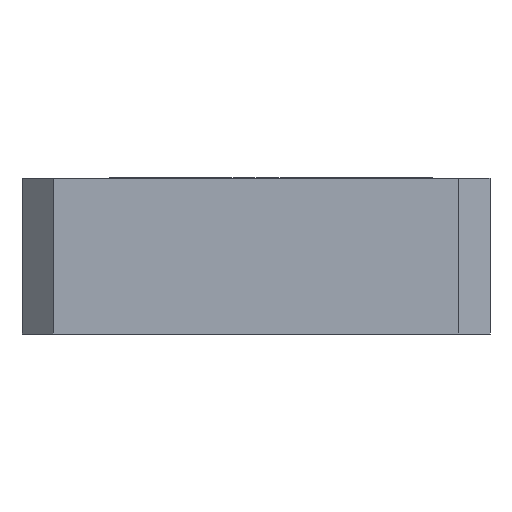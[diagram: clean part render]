
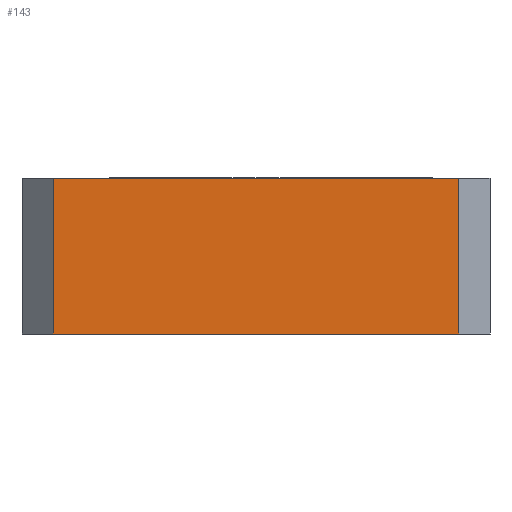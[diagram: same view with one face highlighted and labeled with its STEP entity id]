
A CAD part, front view. The second image highlights one B-rep face of the part: STEP entity #143.
In plain terms, the highlighted planar face has unit normal (0, -1, 0).
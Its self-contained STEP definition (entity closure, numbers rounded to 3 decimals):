
#66 = ORIENTED_EDGE ( 'NONE', *, *, #148, .T. ) ;
#67 = EDGE_CURVE ( 'NONE', #144, #76, #490, .T. ) ;
#68 = ORIENTED_EDGE ( 'NONE', *, *, #67, .T. ) ;
#73 = VERTEX_POINT ( 'NONE', #330 ) ;
#75 = ORIENTED_EDGE ( 'NONE', *, *, #146, .F. ) ;
#76 = VERTEX_POINT ( 'NONE', #328 ) ;
#80 = VERTEX_POINT ( 'NONE', #323 ) ;
#143 = ADVANCED_FACE ( 'NONE', ( #559 ), #560, .F. ) ;
#144 = VERTEX_POINT ( 'NONE', #563 ) ;
#145 = EDGE_CURVE ( 'NONE', #73, #80, #553, .T. ) ;
#146 = EDGE_CURVE ( 'NONE', #73, #76, #550, .T. ) ;
#147 = ORIENTED_EDGE ( 'NONE', *, *, #145, .T. ) ;
#148 = EDGE_CURVE ( 'NONE', #80, #144, #546, .T. ) ;
#152 = EDGE_LOOP ( 'NONE', ( #75, #147, #66, #68 ) ) ;
#323 = CARTESIAN_POINT ( 'NONE',  ( -13., 0., -5. ) ) ;
#328 = CARTESIAN_POINT ( 'NONE',  ( 13., 0., 5. ) ) ;
#330 = CARTESIAN_POINT ( 'NONE',  ( -13., 0., 5. ) ) ;
#331 = DIRECTION ( 'NONE',  ( 0., 0., 1. ) ) ;
#332 = VECTOR ( 'NONE', #331, 1000. ) ;
#333 = CARTESIAN_POINT ( 'NONE',  ( 13., 0., 5. ) ) ;
#490 = LINE ( 'NONE', #333, #332 ) ;
#546 = LINE ( 'NONE', #607, #606 ) ;
#548 = DIRECTION ( 'NONE',  ( 1., 0., 0. ) ) ;
#549 = VECTOR ( 'NONE', #548, 1000. ) ;
#550 = LINE ( 'NONE', #672, #549 ) ;
#551 = DIRECTION ( 'NONE',  ( 0., 0., -1. ) ) ;
#552 = VECTOR ( 'NONE', #551, 1000. ) ;
#553 = LINE ( 'NONE', #558, #552 ) ;
#554 = DIRECTION ( 'NONE',  ( 0., 0., 1. ) ) ;
#558 = CARTESIAN_POINT ( 'NONE',  ( -13., 0., 5. ) ) ;
#559 = FACE_OUTER_BOUND ( 'NONE', #152, .T. ) ;
#560 = PLANE ( 'NONE',  #670 ) ;
#561 = DIRECTION ( 'NONE',  ( 0., 1., 0. ) ) ;
#562 = CARTESIAN_POINT ( 'NONE',  ( -15., 0., 5. ) ) ;
#563 = CARTESIAN_POINT ( 'NONE',  ( 13., 0., -5. ) ) ;
#605 = DIRECTION ( 'NONE',  ( 1., 0., 0. ) ) ;
#606 = VECTOR ( 'NONE', #605, 1000. ) ;
#607 = CARTESIAN_POINT ( 'NONE',  ( -15., 0., -5. ) ) ;
#670 = AXIS2_PLACEMENT_3D ( 'NONE', #562, #561, #554 ) ;
#672 = CARTESIAN_POINT ( 'NONE',  ( -15., 0., 5. ) ) ;
